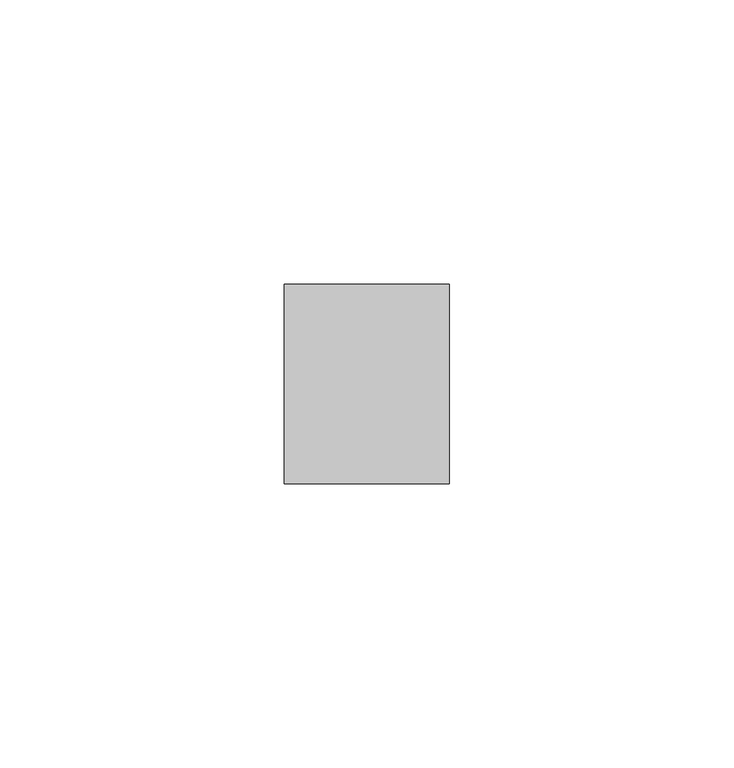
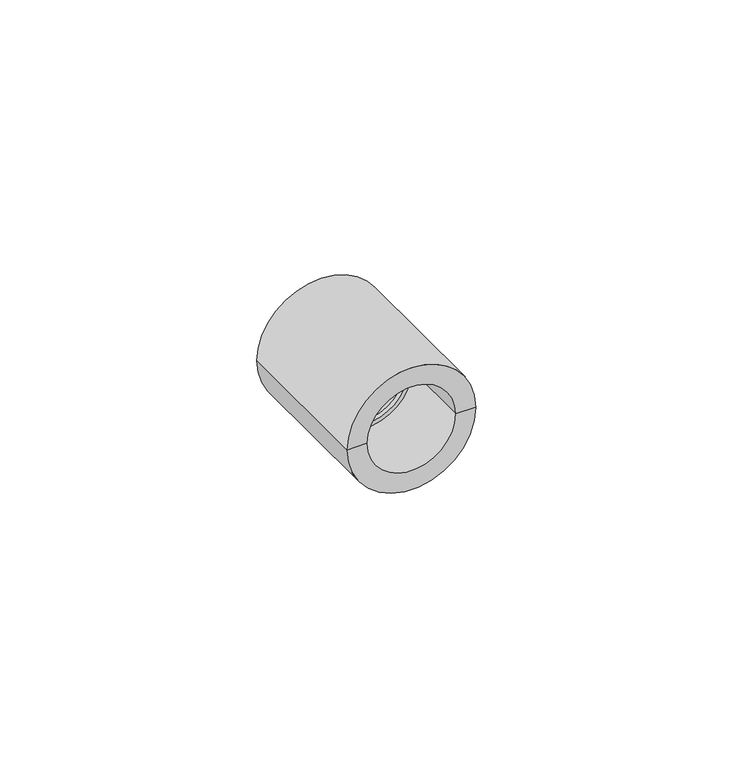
"""IFC4 building model written with IfcOpenShell, lengths in millimetres: pipe fitting geometry, NIRON RED termofusion manguito : Estándar."""

import ifcopenshell
import ifcopenshell.guid

model = None  # the IFC model being written
_history = None  # IfcOwnerHistory: only IFC2X3 demands one
_inside = {}  # id of a spatial element -> (the spatial element, [elements in it])
_under = {}  # id of a project, library or spatial element -> (it, [spatial elements below it])
_declared = {}  # id of a project -> (the project, [libraries it declares])
_typed = {}  # id of a type object -> (the type object, [elements of that type])
_made_of = {}  # id of a material, layer set ... -> (it, [elements and type objects made of it])


def new_model(schema):
    """Start an empty IFC model of exactly this schema.

    Asked for "IFC4X3", IfcOpenShell would pick the latest addendum, in which some entities
    have other attributes; the version numbers below select the first issue.
    IFC2X3 requires an IfcOwnerHistory on every rooted entity: one is made here for all.
    """
    global model, _history
    if schema == "IFC4X3":
        model = ifcopenshell.file(schema_version=(4, 3, 0, 0))
    else:
        model = ifcopenshell.file(schema=schema)
    _inside.clear()
    _under.clear()
    _declared.clear()
    _typed.clear()
    _made_of.clear()
    _history = None
    if model.schema == "IFC2X3":
        org = make("IfcOrganization", Name="unknown")
        user = make(
            "IfcPersonAndOrganization",
            ThePerson=make("IfcPerson", FamilyName="unknown"),
            TheOrganization=org,
        )
        app = make(
            "IfcApplication",
            ApplicationDeveloper=org,
            Version="unknown",
            ApplicationFullName="unknown",
            ApplicationIdentifier="unknown",
        )
        _history = make(
            "IfcOwnerHistory",
            OwningUser=user,
            OwningApplication=app,
            ChangeAction="ADDED",
            CreationDate=0,
        )
    return model


def make(cls, **values):
    """One entity of the class cls with the attributes given. An attribute that is None is left unset."""
    return model.create_entity(
        cls, **{name: value for name, value in values.items() if value is not None}
    )


def rooted(cls, **values):
    """An entity with a GlobalId (a new one), such as an element, a storey or a relation."""
    return make(cls, GlobalId=ifcopenshell.guid.new(), OwnerHistory=_history, **values)


def si_unit(unit_type, name, prefix=None):
    """IfcSIUnit, for example si_unit("LENGTHUNIT", "METRE", prefix="MILLI")."""
    return make("IfcSIUnit", UnitType=unit_type, Prefix=prefix, Name=name)


def assignment(units):
    """IfcUnitAssignment: the units of a project."""
    return None if units is None else make("IfcUnitAssignment", Units=units)


def point(xyz):
    """IfcCartesianPoint."""
    return None if xyz is None else make("IfcCartesianPoint", Coordinates=xyz)


def direction(xyz):
    """IfcDirection."""
    return None if xyz is None else make("IfcDirection", DirectionRatios=xyz)


def frame(location, z_axis=None, x_axis=None):
    """IfcAxis2Placement3D, a coordinate frame: its origin and axes. An axis left out is left unset."""
    return make(
        "IfcAxis2Placement3D",
        Location=point(location),
        Axis=direction(z_axis),
        RefDirection=direction(x_axis),
    )


def origin():
    """The frame at (0, 0, 0) with its axes left unset."""
    return frame((0.0, 0.0, 0.0))


def place(relative_to, where):
    """IfcLocalPlacement: puts the frame where relative to a parent placement (None: the world)."""
    return make(
        "IfcLocalPlacement", PlacementRelTo=relative_to, RelativePlacement=where
    )


def context(
    kind, dimensions, precision=None, world=None, true_north=None, identifier=None
):
    """IfcGeometricRepresentationContext, for example the 3D "Model" context."""
    return make(
        "IfcGeometricRepresentationContext",
        ContextIdentifier=identifier,
        ContextType=kind,
        CoordinateSpaceDimension=dimensions,
        Precision=precision,
        WorldCoordinateSystem=world,
        TrueNorth=true_north,
    )


def project(units=None, contexts=None):
    """IfcProject with its units and contexts."""
    return rooted(
        "IfcProject",
        Name="project",
        RepresentationContexts=contexts,
        UnitsInContext=assignment(units),
    )


def spatial(cls, under=None, at=None, **own):
    """A site, building, storey or space (cls), placed at a placement, below another one or the project."""
    s = rooted(cls, ObjectPlacement=at, **own)
    if under is not None:
        _under.setdefault(under.id(), (under, []))[1].append(s)
    return s


def polyline(points):
    """IfcPolyline through the points."""
    return make("IfcPolyline", Points=[point(p) for p in points])


def circle_curve(where, radius):
    """IfcCircle in the frame where."""
    return make("IfcCircle", Position=where, Radius=radius)


def shape(context_of_items, identifier, shape_type, items):
    """IfcShapeRepresentation: the items that make up one representation, for example the "Body"."""
    return make(
        "IfcShapeRepresentation",
        ContextOfItems=context_of_items,
        RepresentationIdentifier=identifier,
        RepresentationType=shape_type,
        Items=items,
    )


def source(mapping_origin, context_of_items, identifier, shape_type, items):
    """IfcRepresentationMap: a shape defined once, which mapped items show again and again."""
    return make(
        "IfcRepresentationMap",
        MappingOrigin=mapping_origin,
        MappedRepresentation=shape(context_of_items, identifier, shape_type, items),
    )


def transform(
    local_origin,
    x_axis=None,
    y_axis=None,
    z_axis=None,
    scale=None,
    scale2=None,
    scale3=None,
    uniform=True,
):
    """IfcCartesianTransformationOperator3D, or its non-uniform kind. x_axis, y_axis, z_axis: its Axis1, 2, 3."""
    if uniform:
        return make(
            "IfcCartesianTransformationOperator3D",
            Axis1=direction(x_axis),
            Axis2=direction(y_axis),
            LocalOrigin=point(local_origin),
            Scale=scale,
            Axis3=direction(z_axis),
        )
    return make(
        "IfcCartesianTransformationOperator3DnonUniform",
        Axis1=direction(x_axis),
        Axis2=direction(y_axis),
        LocalOrigin=point(local_origin),
        Scale=scale,
        Axis3=direction(z_axis),
        Scale2=scale2,
        Scale3=scale3,
    )


def mapped(mapping_source, mapping_target):
    """IfcMappedItem: shows the shape of a source again, moved by a transform."""
    return make(
        "IfcMappedItem", MappingSource=mapping_source, MappingTarget=mapping_target
    )


def made_of(thing, what):
    """Note that an element or type object is made of a material, layer set ...; save() writes the relation."""
    if what is not None:
        _made_of.setdefault(what.id(), (what, []))[1].append(thing)
    return thing


def element(
    cls,
    number,
    at=None,
    inside=None,
    cuts=None,
    type_object=None,
    material=None,
    context=None,
    identifier="Body",
    shape_type=None,
    held_by="IfcProductDefinitionShape",
    body=None,
    shapes=None,
    **own,
):
    """One element of the class cls, such as IfcWall. Its Tag is "e" and its number.

    at: its placement. inside: the storey or other place that contains it. cuts: it is an
    opening in that element (IfcRelVoidsElement). A single representation is given by context,
    identifier, shape_type and body (its items); several are given by shapes. held_by: the class
    of the entity that holds the representations. save() writes the other relations.
    """
    e = rooted(cls, Tag="e%d" % number, ObjectPlacement=at, **own)
    if body is not None:
        shapes = [shape(context, identifier, shape_type, body)]
    if shapes is not None:
        e.Representation = make(held_by, Representations=shapes)
    if inside is not None:
        _inside.setdefault(inside.id(), (inside, []))[1].append(e)
    if cuts is not None:
        rooted(
            "IfcRelVoidsElement", RelatingBuildingElement=cuts, RelatedOpeningElement=e
        )
    if type_object is not None:
        _typed.setdefault(type_object.id(), (type_object, []))[1].append(e)
    return made_of(e, material)


def aggregate(whole, parts):
    """IfcRelAggregates: a whole, such as a stair, and the parts it consists of."""
    return rooted("IfcRelAggregates", RelatingObject=whole, RelatedObjects=parts)


def save(model, path):
    """Write the relations noted so far, then the file.

    IfcRelAggregates (storeys below a building ...), IfcRelContainedInSpatialStructure (elements
    in a storey), IfcRelDefinesByType, IfcRelAssociatesMaterial and IfcRelDeclares: one each for
    every whole, place, type object, material and project.
    """
    for whole, parts in _under.values():
        aggregate(whole, parts)
    for where, things in _inside.values():
        rooted(
            "IfcRelContainedInSpatialStructure",
            RelatedElements=things,
            RelatingStructure=where,
        )
    for kind, things in _typed.values():
        rooted("IfcRelDefinesByType", RelatedObjects=things, RelatingType=kind)
    for what, things in _made_of.values():
        rooted("IfcRelAssociatesMaterial", RelatedObjects=things, RelatingMaterial=what)
    for by, libraries in _declared.values():
        rooted("IfcRelDeclares", RelatingContext=by, RelatedDefinitions=libraries)
    model.write(path)


def plane_surface(at):
    """IfcPlane: the flat surface through the origin of the frame at, square to its z axis."""
    return make("IfcPlane", Position=at)


def cylinder_surface(at, radius):
    """IfcCylindricalSurface: all points at the distance radius from the z axis of the frame at."""
    return make("IfcCylindricalSurface", Position=at, Radius=radius)


def revolved_surface(curve, axis_point, axis_direction):
    """IfcSurfaceOfRevolution: the curve turned about the line through axis_point along axis_direction."""
    return make(
        "IfcSurfaceOfRevolution",
        SweptCurve=make("IfcArbitraryOpenProfileDef", ProfileType="CURVE", Curve=curve),
        AxisPosition=make("IfcAxis1Placement", Location=point(axis_point), Axis=direction(axis_direction)),
    )


def advanced_brep(points, edges, surfaces, faces):
    """IfcAdvancedBrep: a solid bounded by faces that lie on surfaces and meet in shared edges.

    An edge is (start, end): straight between two places in points (the first is 0);
    or (start, end, curve); or (start, end, curve, False) where it runs against its curve.
    A face is (place in surfaces, loops), or (place, loops, False) where it looks against
    its surface's normal. A loop lists edges by number (the first is 1), with a minus sign
    where the edge is run from its end to its start. The first loop is the outer one.
    """
    corners = [point(p) for p in points]
    vertices = [make("IfcVertexPoint", VertexGeometry=c) for c in corners]
    made = []
    for start, end, *more in edges:
        made.append(
            make(
                "IfcEdgeCurve",
                EdgeStart=vertices[start],
                EdgeEnd=vertices[end],
                EdgeGeometry=more[0] if more else make("IfcPolyline", Points=[corners[start], corners[end]]),
                SameSense=more[1] if len(more) > 1 else True,
            )
        )
    hull = []
    for where, loops, *sense in faces:
        bounds = []
        for j, loop in enumerate(loops):
            ring = [make("IfcOrientedEdge", EdgeElement=made[abs(k) - 1], Orientation=k > 0) for k in loop]
            bounds.append(
                make(
                    "IfcFaceOuterBound" if j == 0 else "IfcFaceBound",
                    Bound=make("IfcEdgeLoop", EdgeList=ring),
                    Orientation=True,
                )
            )
        hull.append(make("IfcAdvancedFace", Bounds=bounds, FaceSurface=surfaces[where], SameSense=sense[0] if sense else True))
    return make("IfcAdvancedBrep", Outer=make("IfcClosedShell", CfsFaces=hull))


def pipe_fitting_c5ae0816(model_context):
    return source(origin(), model_context, "Body", "AdvancedBrep", [
        advanced_brep(
        [(14.5, 35.0, 0.0), (-14.5, 35.0, 0.0), (-10.0, 35.0, 0.0), (10.0, 35.0, 0.0), (14.5, 0.0, 0.0), (-14.5, 0.0, 0.0), (10.0, 0.0, 0.0), (-10.0, 0.0, 0.0), (10.0, 17.0, 0.0), (-10.0, 17.0, 0.0), (9.0, 17.0, 0.0), (-9.0, 17.0, 0.0), (9.0, 18.0, 0.0), (-9.0, 18.0, 0.0), (10.0, 18.0, 0.0), (-10.0, 18.0, 0.0)],
        [
            (0, 1, circle_curve(frame((0.0, 35.0, 0.0), z_axis=(0.0, 1.0, 0.0), x_axis=(-1.0, 0.0, 0.0)), 14.5)),
            (1, 2),
            (2, 3, circle_curve(frame((0.0, 35.0, 0.0), z_axis=(0.0, -1.0, 0.0), x_axis=(-1.0, 0.0, 0.0)), 10.0)),
            (3, 0),
            (1, 0, circle_curve(frame((0.0, 35.0, 0.0), z_axis=(0.0, 1.0, 0.0), x_axis=(-1.0, 0.0, 0.0)), 14.5)),
            (3, 2, circle_curve(frame((0.0, 35.0, 0.0), z_axis=(0.0, -1.0, 0.0), x_axis=(-1.0, 0.0, 0.0)), 10.0)),
            (4, 5, circle_curve(frame((0.0, 0.0, 0.0), z_axis=(0.0, 1.0, 0.0), x_axis=(-1.0, 0.0, 0.0)), 14.5)),
            (5, 1),
            (0, 4),
            (5, 4, circle_curve(frame((0.0, 0.0, 0.0), z_axis=(0.0, 1.0, 0.0), x_axis=(-1.0, 0.0, 0.0)), 14.5)),
            (6, 7, circle_curve(frame((0.0, 0.0, 0.0), z_axis=(0.0, 1.0, 0.0), x_axis=(-1.0, 0.0, 0.0)), 10.0)),
            (7, 5),
            (4, 6),
            (7, 6, circle_curve(frame((0.0, 0.0, 0.0), z_axis=(0.0, 1.0, 0.0), x_axis=(-1.0, 0.0, 0.0)), 10.0)),
            (8, 9, circle_curve(frame((0.0, 17.0, 0.0), z_axis=(0.0, 1.0, 0.0), x_axis=(-1.0, 0.0, 0.0)), 10.0)),
            (9, 7),
            (6, 8),
            (9, 8, circle_curve(frame((0.0, 17.0, 0.0), z_axis=(0.0, 1.0, 0.0), x_axis=(-1.0, 0.0, 0.0)), 10.0)),
            (10, 11, circle_curve(frame((0.0, 17.0, 0.0), z_axis=(0.0, 1.0, 0.0), x_axis=(-1.0, 0.0, 0.0)), 9.0)),
            (11, 9),
            (8, 10),
            (11, 10, circle_curve(frame((0.0, 17.0, 0.0), z_axis=(0.0, 1.0, 0.0), x_axis=(-1.0, 0.0, 0.0)), 9.0)),
            (12, 13, circle_curve(frame((0.0, 18.0, 0.0), z_axis=(0.0, 1.0, 0.0), x_axis=(-1.0, 0.0, 0.0)), 9.0)),
            (13, 11),
            (10, 12),
            (13, 12, circle_curve(frame((0.0, 18.0, 0.0), z_axis=(0.0, 1.0, 0.0), x_axis=(-1.0, 0.0, 0.0)), 9.0)),
            (14, 15, circle_curve(frame((0.0, 18.0, 0.0), z_axis=(0.0, 1.0, 0.0), x_axis=(-1.0, 0.0, 0.0)), 10.0)),
            (15, 13),
            (12, 14),
            (15, 14, circle_curve(frame((0.0, 18.0, 0.0), z_axis=(0.0, 1.0, 0.0), x_axis=(-1.0, 0.0, 0.0)), 10.0)),
            (2, 15),
            (14, 3),
        ],
        [
            plane_surface(frame((0.0, 35.0, 0.0), z_axis=(0.0, 1.0, 0.0), x_axis=(-1.0, 0.0, 0.0))),
            cylinder_surface(frame((0.0, 60.0, 0.0), z_axis=(0.0, -1.0, 0.0), x_axis=(-1.0, 0.0, 0.0)), 14.5),
            plane_surface(frame((0.0, 0.0, 0.0), z_axis=(0.0, -1.0, 0.0), x_axis=(-1.0, 0.0, 0.0))),
            revolved_surface(polyline([(-10.0, 0.0, 0.0), (-10.0, 17.0, 0.0)]), (0.0, 60.0, 0.0), (0.0, -1.0, 0.0)),
            plane_surface(frame((0.0, 17.0, 0.0), z_axis=(0.0, -1.0, 0.0), x_axis=(-1.0, 0.0, 0.0))),
            revolved_surface(polyline([(-9.0, 17.0, 0.0), (-9.0, 18.0, 0.0)]), (0.0, 60.0, 0.0), (0.0, -1.0, 0.0)),
            plane_surface(frame((0.0, 18.0, 0.0), z_axis=(0.0, 1.0, 0.0), x_axis=(-1.0, 0.0, 0.0))),
            revolved_surface(polyline([(-10.0, 18.0, 0.0), (-10.0, 35.0, 0.0)]), (0.0, 60.0, 0.0), (0.0, -1.0, 0.0)),
        ],
        [
            (0, [[1, 2, 3, 4]]),
            (0, [[5, -4, 6, -2]]),
            (1, [[7, 8, -1, 9]]),
            (1, [[10, -9, -5, -8]]),
            (2, [[11, 12, -7, 13]]),
            (2, [[14, -13, -10, -12]]),
            (3, [[15, 16, -11, 17]]),
            (3, [[18, -17, -14, -16]]),
            (4, [[19, 20, -15, 21]]),
            (4, [[22, -21, -18, -20]]),
            (5, [[23, 24, -19, 25]]),
            (5, [[26, -25, -22, -24]]),
            (6, [[27, 28, -23, 29]]),
            (6, [[30, -29, -26, -28]]),
            (7, [[-3, 31, -27, 32]]),
            (7, [[-6, -32, -30, -31]]),
        ],
    ),
    ])


if __name__ == "__main__":
    model = new_model("IFC4")
    model_context = context("Model", 3, world=origin())
    ifc_project = project(units=[si_unit("LENGTHUNIT", "METRE", prefix="MILLI")], contexts=[model_context])
    site = spatial("IfcSite", under=ifc_project)
    building = spatial("IfcBuilding", under=site)
    placement = place(None, origin())
    pipe_fitting_shape = pipe_fitting_c5ae0816(model_context)
    element("IfcPipeFitting", 1, ObjectType="NIRON RED termofusion manguito : Estándar", at=placement, inside=building, context=model_context, shape_type="MappedRepresentation", body=[
        mapped(pipe_fitting_shape, transform((0.0, 0.0, 0.0), x_axis=(1.0, 0.0, 0.0), y_axis=(0.0, 1.0, 0.0), z_axis=(0.0, 0.0, 1.0))),
    ])
    save(model, "model.ifc")
